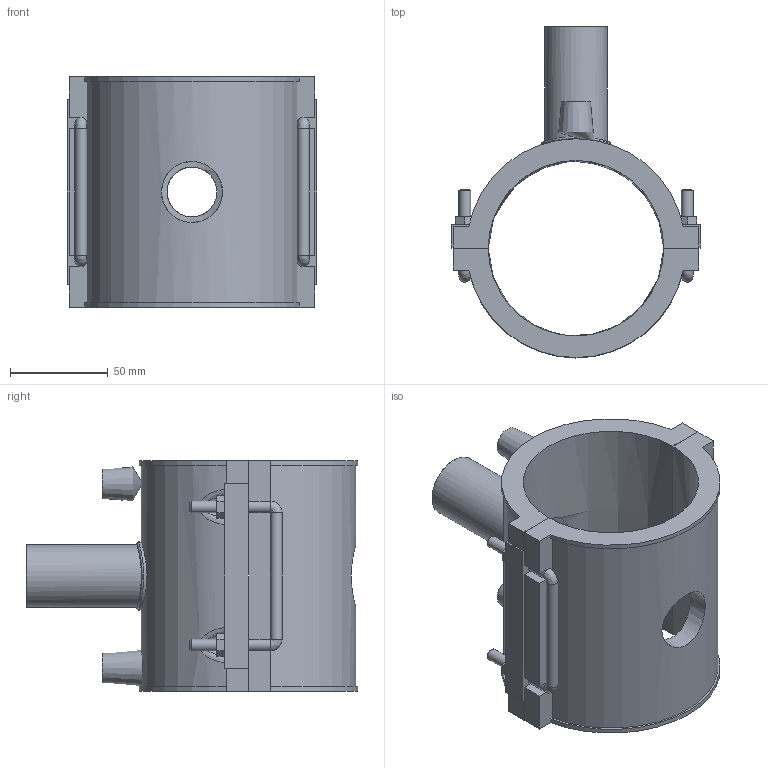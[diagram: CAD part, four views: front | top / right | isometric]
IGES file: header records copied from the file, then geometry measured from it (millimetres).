
Global section: file name: 495804090032.ipt; native system: Autodesk Inventor 2015; preprocessor: unknown; author: KIM; date: 20180426.120829; units: millimetre
Bounding box: 128 x 170.1 x 118 mm (x, y, z)
Volume: 436542.3 mm3; surface area: 113940.3 mm2
Topology: 2 solids, 2 shells, 133 faces, 340 edges, 214 vertices
Faces by surface type: plane 85, cylinder 22, revolution 10, bspline 9, cone 7
Full cylindrical faces by diameter (mm): 4 x2, 6 x10, 32 x1, 35.2 x1
